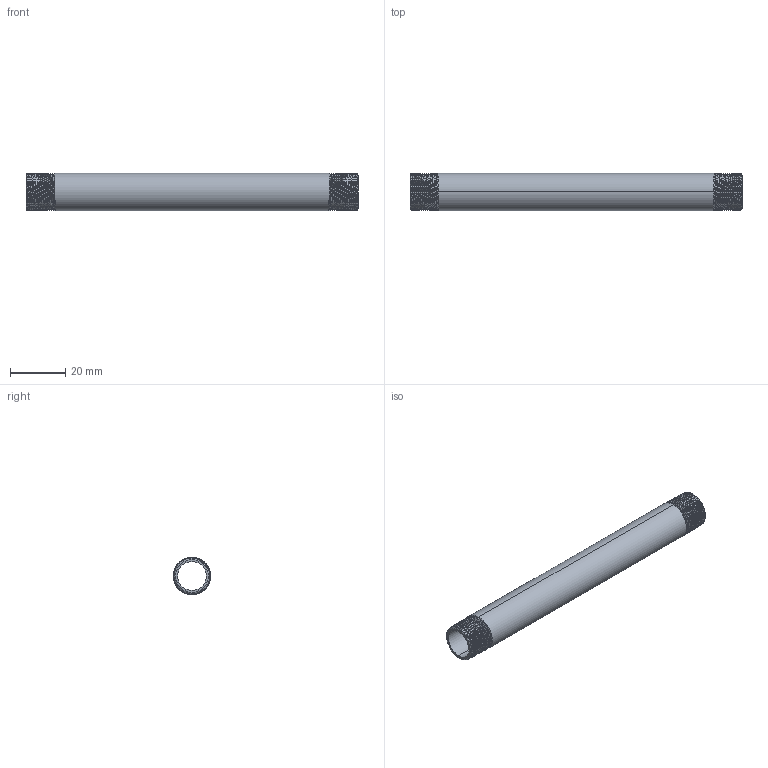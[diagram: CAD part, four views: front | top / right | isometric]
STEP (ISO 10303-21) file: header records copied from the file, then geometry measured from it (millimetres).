
FILE_DESCRIPTION (( 'STEP AP203' ), '1' );
FILE_NAME ('3D_R210_1-4x120_17185810.STEP', '2024-08-16T13:42:57', ( '' ), ( '' ), 'SwSTEP 2.0', 'SolidWorks 2024', '' );
FILE_SCHEMA (( 'CONFIG_CONTROL_DESIGN' ));
Length unit declared in the file: millimetre
Products named in the file (1): 3D_R210_1-4x120_17185810
Bounding box: 120 x 13.5 x 13.5 mm (x, y, z)
Volume: 6604.6 mm3; surface area: 9488.9 mm2
Topology: 1 solids, 1 shells, 76 faces, 216 edges, 142 vertices
Faces by surface type: cone 62, bspline 6, cylinder 4, plane 4
Entity records: 10859 total; most frequent: CARTESIAN_POINT 9099, ORIENTED_EDGE 432, DIRECTION 230, EDGE_CURVE 216, VERTEX_POINT 142, B_SPLINE_CURVE_WITH_KNOTS 130, AXIS2_PLACEMENT_3D 81, EDGE_LOOP 78
